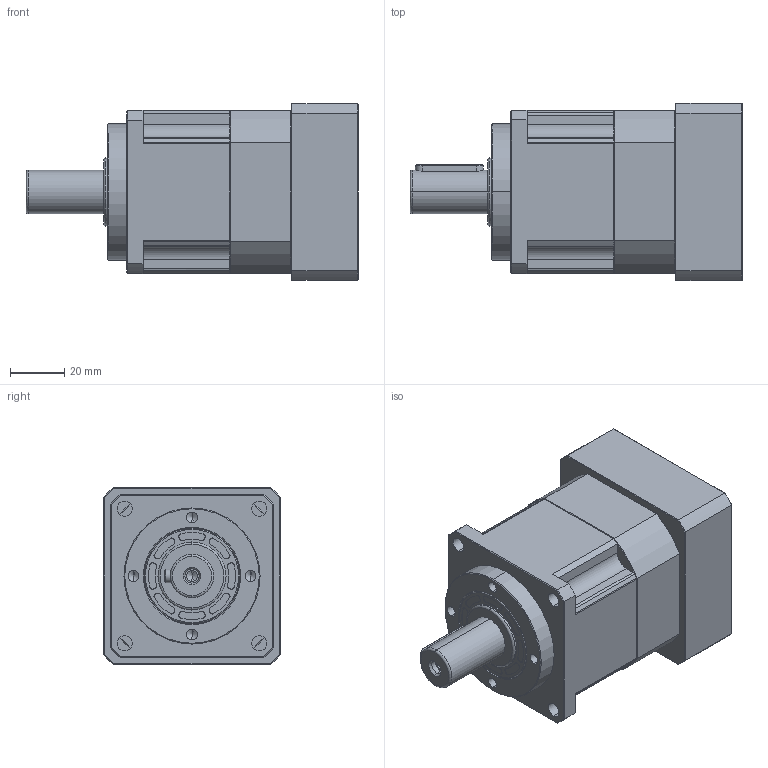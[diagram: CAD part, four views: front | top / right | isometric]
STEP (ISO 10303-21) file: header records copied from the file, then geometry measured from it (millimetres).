
FILE_DESCRIPTION (( 'STEP AP214' ), '1' );
FILE_NAME ('6.0045_HAB60-10-14×37-60-75M5.STEP', '2026-02-11T09:07:47', ( '' ), ( '' ), 'SwSTEP 2.0', 'SolidWorks 2025', '' );
FILE_SCHEMA (( 'AUTOMOTIVE_DESIGN' ));
Length unit declared in the file: millimetre
Products named in the file (1): 6.0045_HAB60-10-14×37-60-75M5
Bounding box: 122 x 65 x 65 mm (x, y, z)
Volume: 264256.9 mm3; surface area: 62698.6 mm2
Topology: 19 solids, 19 shells, 728 faces, 1763 edges, 1085 vertices
Faces by surface type: plane 291, cylinder 278, cone 139, torus 20
Entity records: 26240 total; most frequent: CARTESIAN_POINT 4151, DIRECTION 3787, ORIENTED_EDGE 3434, EDGE_CURVE 1717, AXIS2_PLACEMENT_3D 1479, VERTEX_POINT 1085, VECTOR 829, LINE 829
